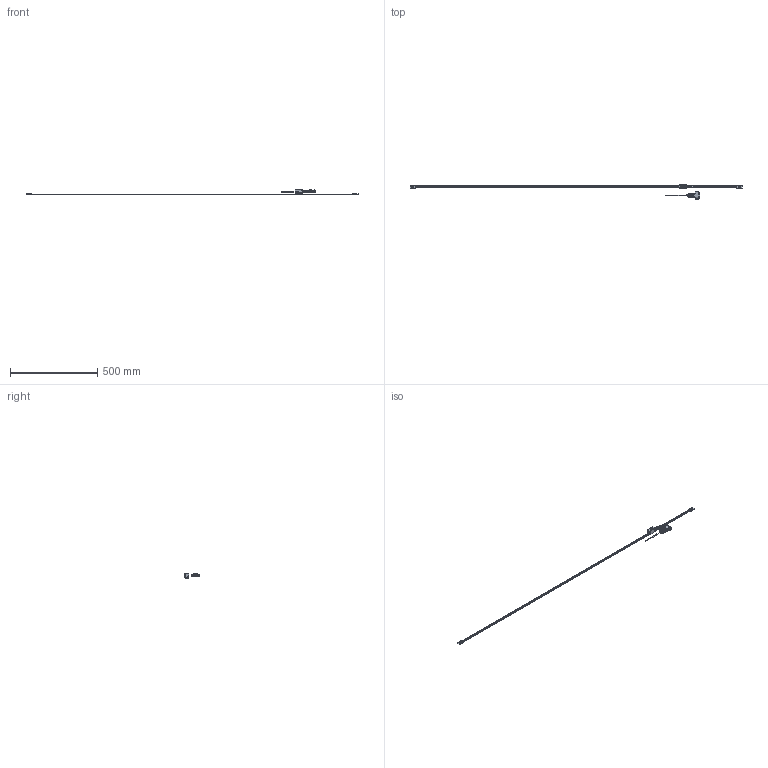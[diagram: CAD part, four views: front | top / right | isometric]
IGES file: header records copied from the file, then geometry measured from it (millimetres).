
Start section: Elysium IGES Interface
Global section: file name: 86H\\Utsu119s\kiyo_cad\data\3D\ABS ST1300\HP宖嵹梡_201708\ST1300-E僞僀僾\ST1300-1800E.igs; native system: Creo Elements/Direct Modeling 18.1B  29-Sep-2012; preprocessor: Creo Element/Direct IGES_3D V2.2; author: Unknown; organization: Unknown; date: 20180227.115217; units: millimetre
Bounding box: 1900 x 83 x 25.45 mm (x, y, z)
Volume: 31251.2 mm3; surface area: 68859.3 mm2
Topology: 3 solids, 6 shells, 3200 faces, 8942 edges, 5912 vertices
Faces by surface type: bspline 3200
